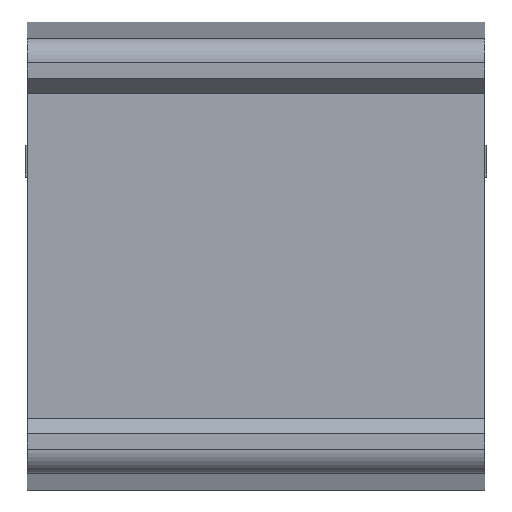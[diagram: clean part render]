
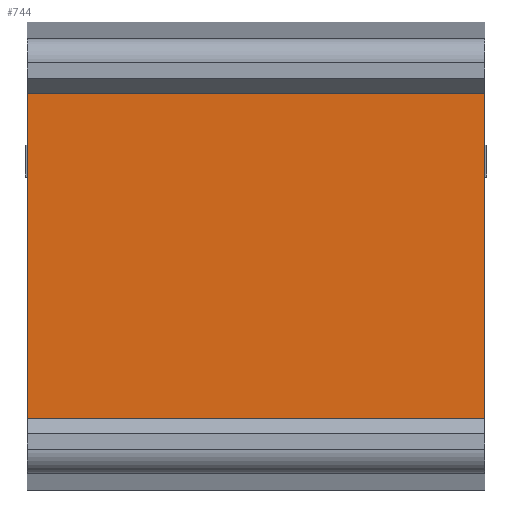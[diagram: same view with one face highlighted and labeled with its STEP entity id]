
A CAD part, front view. The second image highlights one B-rep face of the part: STEP entity #744.
In plain terms, the highlighted planar face has unit normal (0, -1, 0).
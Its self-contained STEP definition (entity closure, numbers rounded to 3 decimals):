
#19=PLANE('',#795);
#48=FACE_OUTER_BOUND('',#87,.T.);
#87=EDGE_LOOP('',(#519,#520,#521,#522));
#127=LINE('',#1077,#213);
#131=LINE('',#1089,#217);
#133=LINE('',#1094,#219);
#134=LINE('',#1095,#220);
#213=VECTOR('',#861,10.);
#217=VECTOR('',#871,10.);
#219=VECTOR('',#877,10.);
#220=VECTOR('',#878,10.);
#323=VERTEX_POINT('',#1070);
#326=VERTEX_POINT('',#1075);
#330=VERTEX_POINT('',#1086);
#331=VERTEX_POINT('',#1088);
#399=EDGE_CURVE('',#326,#323,#127,.T.);
#404=EDGE_CURVE('',#330,#331,#131,.T.);
#407=EDGE_CURVE('',#326,#331,#133,.T.);
#408=EDGE_CURVE('',#323,#330,#134,.T.);
#519=ORIENTED_EDGE('',*,*,#399,.F.);
#520=ORIENTED_EDGE('',*,*,#407,.T.);
#521=ORIENTED_EDGE('',*,*,#404,.F.);
#522=ORIENTED_EDGE('',*,*,#408,.F.);
#744=ADVANCED_FACE('',(#48),#19,.T.);
#795=AXIS2_PLACEMENT_3D('',#1093,#875,#876);
#861=DIRECTION('',(-1.,0.,0.));
#871=DIRECTION('',(1.,0.,0.));
#875=DIRECTION('center_axis',(0.,-1.,0.));
#876=DIRECTION('ref_axis',(0.,0.,-1.));
#877=DIRECTION('',(0.,0.,1.));
#878=DIRECTION('',(0.,0.,1.));
#1070=CARTESIAN_POINT('',(0.,-2.,-11.76));
#1075=CARTESIAN_POINT('',(29.,-2.,-11.76));
#1077=CARTESIAN_POINT('',(0.,-2.,-11.76));
#1086=CARTESIAN_POINT('',(0.,-2.,11.76));
#1088=CARTESIAN_POINT('',(29.,-2.,11.76));
#1089=CARTESIAN_POINT('',(0.,-2.,11.76));
#1093=CARTESIAN_POINT('Origin',(0.,-2.,0.));
#1094=CARTESIAN_POINT('',(29.,-2.,12.8));
#1095=CARTESIAN_POINT('',(0.,-2.,-12.8));
